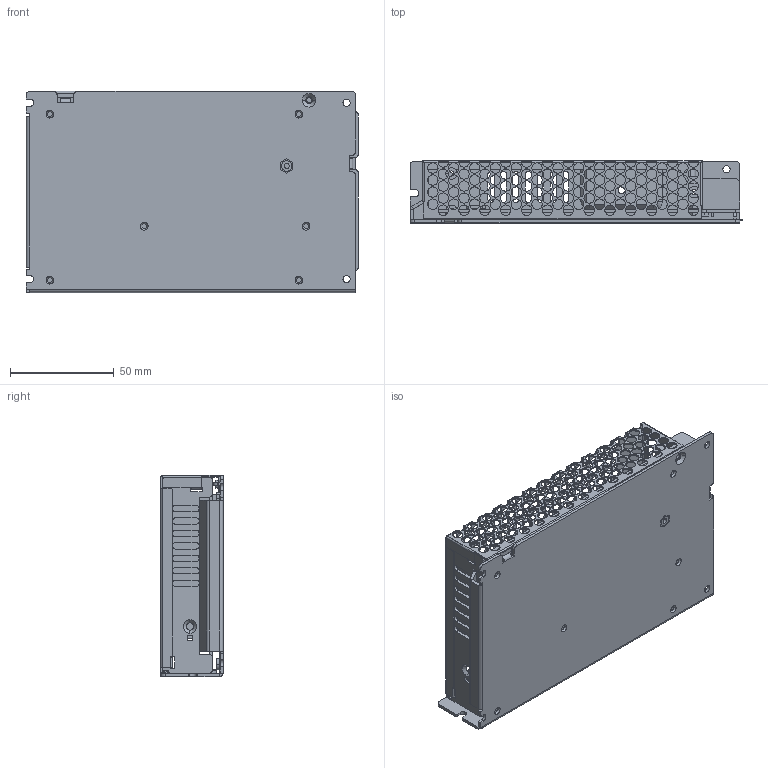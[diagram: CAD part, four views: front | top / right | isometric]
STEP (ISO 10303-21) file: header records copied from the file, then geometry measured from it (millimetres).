
FILE_DESCRIPTION((''),'2;1');
FILE_NAME('LPD-150-X','2022-08-19T13:56:27',('huangxiufeng'),(''),'CREO PARAMETRIC BY PTC INC, 2017260','CREO PARAMETRIC BY PTC INC, 2017260','');
FILE_SCHEMA(('AUTOMOTIVE_DESIGN { 1 0 10303 214 1 1 1 1 }'));
Products named in the file (1): LPD-150-X
Bounding box: 160 x 30 x 97 mm (x, y, z)
Surface area: 148461.6 mm2 (no closed solid volume)
Topology: 0 solids, 9 shells, 1886 faces, 5735 edges, 3754 vertices
Faces by surface type: cylinder 1205, plane 568, bspline 69, cone 30, torus 14
Entity records: 82374 total; most frequent: CARTESIAN_POINT 14244, DIRECTION 11699, ORIENTED_EDGE 11002, EDGE_CURVE 5735, AXIS2_PLACEMENT_3D 4398, VERTEX_POINT 3754, VECTOR 2903, LINE 2903
